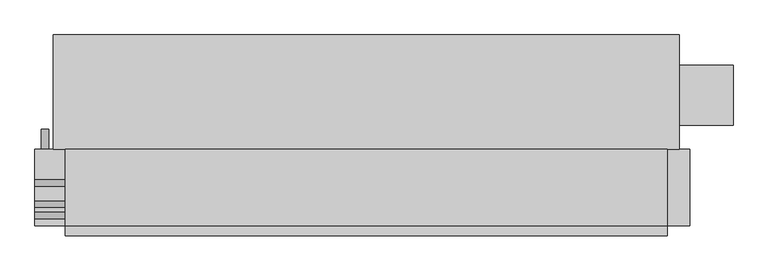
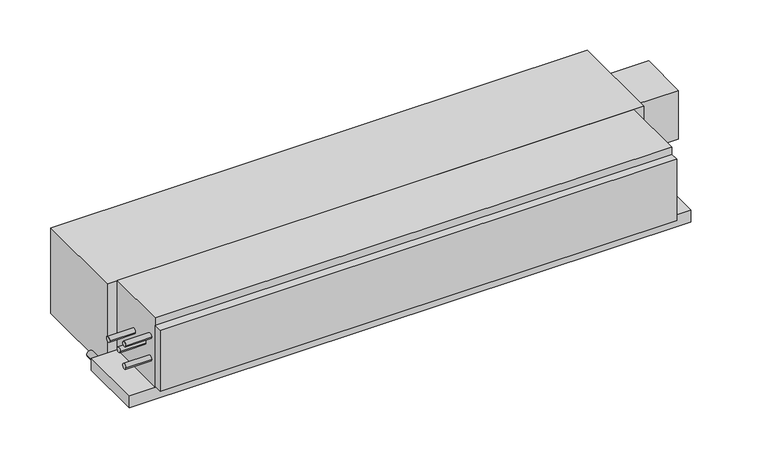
"""IFC4 building model written with IfcOpenShell, lengths in millimetres: proxy geometry, Concealed_Horizontal_Fan_Coil_Unit_With_Plenum_-_42CEA_-_CARRIER_-_4-Pipe_LH_2022 : Size 12 - 277v/60Hz/1Ph - 4/1 Coil."""

from ifc_helpers import new_model, si_unit, point, frame, frame_2d, origin, place, context, project, spatial, polyline, circle_curve, trimmed, segment, composite_curve, outline, extrude, source, transform, mapped, element, save


def mechanical_equipment_84dba4f3(model_context):
    return source(origin(), model_context, "Body", "SweptSolid", [
        extrude(outline(composite_curve([segment(trimmed(circle_curve(frame_2d((-241.3, -660.4)), 9.525), [point((-241.3, -669.925))], [point((-241.3, -650.875))], False, "CARTESIAN"), True, "CONTINUOUS"), segment(trimmed(circle_curve(frame_2d((-241.3, -660.4)), 9.525), [point((-241.3, -650.875))], [point((-241.3, -669.925))], False, "CARTESIAN"), True, "CONTINUOUS")], self_intersect=False)), frame((0.0, -141.2875, 0.0), z_axis=(0.0, 1.0, 0.0), x_axis=(0.0, 0.0, 1.0)), (0.0, 0.0, 1.0), 50.8),
        extrude(outline(composite_curve([segment(trimmed(circle_curve(frame_2d((-309.5625, -69.85)), 7.9375), [point((-301.625, -69.85))], [point((-317.5, -69.85))], False, "CARTESIAN"), True, "CONTINUOUS"), segment(trimmed(circle_curve(frame_2d((-309.5625, -69.85)), 7.9375), [point((-317.5, -69.85))], [point((-301.625, -69.85))], False, "CARTESIAN"), True, "CONTINUOUS")], self_intersect=False)), frame((-685.8, 0.0, 0.0), z_axis=(1.0, 0.0, 0.0), x_axis=(0.0, 1.0, 0.0)), (0.0, 0.0, 1.0), 76.2),
        extrude(outline(composite_curve([segment(trimmed(circle_curve(frame_2d((-309.5625, -139.7)), 7.9375), [point((-301.625, -139.7))], [point((-317.5, -139.7))], False, "CARTESIAN"), True, "CONTINUOUS"), segment(trimmed(circle_curve(frame_2d((-309.5625, -139.7)), 7.9375), [point((-317.5, -139.7))], [point((-301.625, -139.7))], False, "CARTESIAN"), True, "CONTINUOUS")], self_intersect=False)), frame((-685.8, 0.0, 0.0), z_axis=(1.0, 0.0, 0.0), x_axis=(0.0, 1.0, 0.0)), (0.0, 0.0, 1.0), 76.2),
        extrude(outline(composite_curve([segment(trimmed(circle_curve(frame_2d((-227.0125, -104.775)), 7.9375), [point((-219.075, -104.775))], [point((-234.95, -104.775))], False, "CARTESIAN"), True, "CONTINUOUS"), segment(trimmed(circle_curve(frame_2d((-227.0125, -104.775)), 7.9375), [point((-234.95, -104.775))], [point((-219.075, -104.775))], False, "CARTESIAN"), True, "CONTINUOUS")], self_intersect=False)), frame((-685.8, 0.0, 0.0), z_axis=(1.0, 0.0, 0.0), x_axis=(0.0, 1.0, 0.0)), (0.0, 0.0, 1.0), 76.2),
        extrude(outline(composite_curve([segment(trimmed(circle_curve(frame_2d((-280.9875, -104.775)), 7.9375), [point((-273.05, -104.775))], [point((-288.925, -104.775))], False, "CARTESIAN"), True, "CONTINUOUS"), segment(trimmed(circle_curve(frame_2d((-280.9875, -104.775)), 7.9375), [point((-288.925, -104.775))], [point((-273.05, -104.775))], False, "CARTESIAN"), True, "CONTINUOUS")], self_intersect=False)), frame((-685.8, 0.0, 0.0), z_axis=(1.0, 0.0, 0.0), x_axis=(0.0, 1.0, 0.0)), (0.0, 0.0, 1.0), 76.2),
        extrude(outline(polyline([(914.4, -334.9625), (914.4, -360.3625), (-609.6, -360.3625), (-609.6, -334.9625), (914.4, -334.9625)])), frame((0.0, 0.0, -212.725), z_axis=(0.0, 0.0, 1.0), x_axis=(1.0, 0.0, 0.0)), (0.0, 0.0, 1.0), 190.5),
        extrude(outline(polyline([(914.4, -334.9625), (-609.6, -334.9625), (-609.6, -141.2875), (914.4, -141.2875), (914.4, -334.9625)])), frame((0.0, 0.0, -215.9), z_axis=(0.0, 0.0, 1.0), x_axis=(1.0, 0.0, 0.0)), (0.0, 0.0, 1.0), 215.9),
        extrude(outline(polyline([(971.55, -141.2875), (971.55, -334.9625), (-685.8, -334.9625), (-685.8, -141.2875), (971.55, -141.2875)])), frame((0.0, 0.0, -254.0), z_axis=(0.0, 0.0, 1.0), x_axis=(1.0, 0.0, 0.0)), (0.0, 0.0, 1.0), 38.1),
        extrude(outline(polyline([(1081.0875, 71.4375), (1081.0875, -80.9625), (944.5625, -80.9625), (944.5625, 71.4375), (1081.0875, 71.4375)])), frame((0.0, 0.0, -187.325), z_axis=(0.0, 0.0, 1.0), x_axis=(1.0, 0.0, 0.0)), (0.0, 0.0, 1.0), 152.4),
        extrude(outline(polyline([(-639.7625, 147.6375), (944.5625, 147.6375), (944.5625, -141.2875), (-639.7625, -141.2875), (-639.7625, 147.6375)])), frame((0.0, 0.0, -266.7), z_axis=(0.0, 0.0, 1.0), x_axis=(1.0, 0.0, 0.0)), (0.0, 0.0, 1.0), 266.7),
    ])


if __name__ == "__main__":
    model = new_model("IFC4")
    model_context = context("Model", 3, world=origin())
    ifc_project = project(units=[si_unit("LENGTHUNIT", "METRE", prefix="MILLI")], contexts=[model_context])
    site = spatial("IfcSite", under=ifc_project)
    building = spatial("IfcBuilding", under=site)
    placement = place(None, origin())
    mechanical_equipment_shape = mechanical_equipment_84dba4f3(model_context)
    element("IfcBuildingElementProxy", 1, Name="Concealed_Horizontal_Fan_Coil_Unit_With_Plenum_-_42CEA_-_CARRIER_-_4-Pipe_LH_2022 : Size 12 - 277v/60Hz/1Ph - 4/1 Coil", ObjectType="Concealed_Horizontal_Fan_Coil_Unit_With_Plenum_-_42CEA_-_CARRIER_-_4-Pipe_LH_2022 : Size 12 - 277v/60Hz/1Ph - 4/1 Coil", at=placement, inside=building, context=model_context, shape_type="MappedRepresentation", body=[
        mapped(mechanical_equipment_shape, transform((0.0, 0.0, 0.0), x_axis=(1.0, 0.0, 0.0), y_axis=(0.0, 1.0, 0.0), z_axis=(0.0, 0.0, 1.0))),
    ])
    save(model, "model.ifc")
